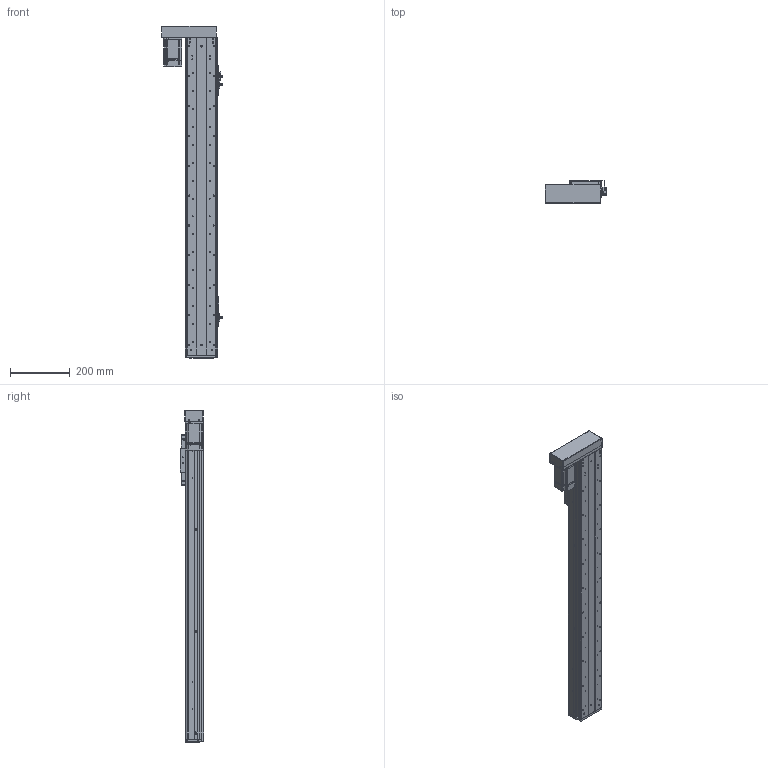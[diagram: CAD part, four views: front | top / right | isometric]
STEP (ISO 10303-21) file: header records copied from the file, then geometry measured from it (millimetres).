
FILE_DESCRIPTION (( 'STEP AP203' ), '1' );
FILE_NAME ('RY100FS-L1620-300-LK(15双轨).SLDASM_800.step', '2021-03-02T07:40:34', ( '盈信电脑' ), ( '东莞市道滘镇水果街19号' ), 'SwSTEP 2.0', 'SolidWorks 2012', '' );
FILE_SCHEMA (( 'CONFIG_CONTROL_DESIGN' ));
Length unit declared in the file: millimetre
Products named in the file (21): RY100F-詩湍揤踡謫; RY100F-詩湍幗謫粣; 棠沺沭; RY100F-綴裔啣; RY100FS-L1620-300-LK(15邧寢).SLDASM_800; RY100FS-15邧寢蛌殏萇儂欶; 蚥薯蝶紫輸; RY100FS-15邧寢蛌殏萇儂啣; RY100FS-15邧寢蛌殏萇儂釱; 滅袉蝶14-35; 1; RY100FS-双轨螺母座(16丝杆）; 覜茼ん672; RY100F-詩湍揤踡輸; 672嫖萇羲壽假蚾釱; RY80俋离覜茼え; RY100FS-双轨铝滑块(上板）; RY100FS-300-LK15絳寢倰第奻裔啣_800; RY100F-滅鳥裔啣; RY100FS-300-LK15邧寢祥凄詩湍_800; RY100FS-300-LK15絳寢倰第菁釱_800
Assembly tree (29 placements, depth 2):
  RY100FS-L1620-300-LK(15邧寢).SLDASM_800
    RY100FS-300-LK15絳寢倰第菁釱_800
    RY100FS-300-LK15絳寢倰第奻裔啣_800  x2
    RY100FS-300-LK15邧寢祥凄詩湍_800
    RY100FS-双轨铝滑块(上板）
    RY100F-滅鳥裔啣
    棠沺沭  x2
    RY100F-詩湍幗謫粣
    RY100F-詩湍揤踡謫  x2
    RY100F-綴裔啣
    672嫖萇羲壽假蚾釱  x2
    RY80俋离覜茼え  x2
    覜茼ん672  x3
    RY100F-詩湍揤踡輸  x2
    RY100FS-双轨螺母座(16丝杆）
    RY100FS-15邧寢蛌殏萇儂釱
    滅袉蝶14-35
    1
    RY100FS-15邧寢蛌殏萇儂啣
    RY100FS-15邧寢蛌殏萇儂欶
    蚥薯蝶紫輸  x2
Bounding box: 207.3 x 78.5 x 1112 mm (x, y, z)
Volume: 2628231.1 mm3; surface area: 1126562.4 mm2
Topology: 29 solids, 29 shells, 2284 faces, 6217 edges, 4016 vertices
Faces by surface type: cylinder 1050, plane 1033, cone 168, bspline 33
Entity records: 66000 total; most frequent: CARTESIAN_POINT 14117, DIRECTION 10332, ORIENTED_EDGE 10242, EDGE_CURVE 5121, AXIS2_PLACEMENT_3D 3662, VERTEX_POINT 3364, VECTOR 3008, LINE 3008
